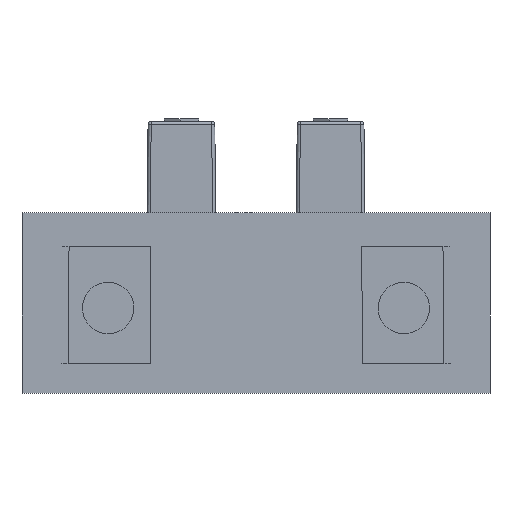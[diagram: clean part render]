
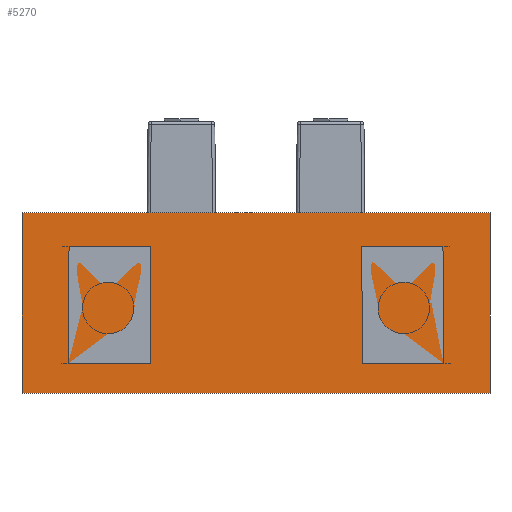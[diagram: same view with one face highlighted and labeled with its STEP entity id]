
A CAD part, left-side view. The second image highlights one B-rep face of the part: STEP entity #5270.
In plain terms, the highlighted planar face has unit normal (-1, 0, 0.006).
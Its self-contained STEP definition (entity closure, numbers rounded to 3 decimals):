
#5231=DIRECTION('',(0.006,0.,1.));
#5232=VECTOR('',#5231,11.56);
#5233=CARTESIAN_POINT('',(-3.741,42.861,-1.883));
#5234=LINE('',#5233,#5232);
#5235=DIRECTION('',(0.,-1.,0.));
#5236=VECTOR('',#5235,30.);
#5237=CARTESIAN_POINT('',(-3.671,42.861,9.677));
#5238=LINE('',#5237,#5236);
#5239=DIRECTION('',(-0.006,0.,-1.));
#5240=VECTOR('',#5239,11.56);
#5241=CARTESIAN_POINT('',(-3.671,12.861,9.677));
#5242=LINE('',#5241,#5240);
#5243=DIRECTION('',(0.,1.,0.));
#5244=VECTOR('',#5243,30.);
#5245=CARTESIAN_POINT('',(-3.741,12.861,-1.883));
#5246=LINE('',#5245,#5244);
#5247=CARTESIAN_POINT('',(-3.671,42.861,9.677));
#5248=CARTESIAN_POINT('',(-3.741,42.861,-1.883));
#5249=VERTEX_POINT('',#5247);
#5250=VERTEX_POINT('',#5248);
#5251=CARTESIAN_POINT('',(-3.671,12.861,9.677));
#5252=CARTESIAN_POINT('',(-3.741,12.861,-1.883));
#5253=VERTEX_POINT('',#5251);
#5254=VERTEX_POINT('',#5252);
#5255=CARTESIAN_POINT('',(-3.671,42.861,9.677));
#5256=DIRECTION('',(-1.,0.,0.006));
#5257=DIRECTION('',(-0.006,0.,-1.));
#5258=AXIS2_PLACEMENT_3D('',#5255,#5256,#5257);
#5259=PLANE('',#5258);
#5261=ORIENTED_EDGE('',*,*,#5260,.T.);
#5263=ORIENTED_EDGE('',*,*,#5262,.T.);
#5265=ORIENTED_EDGE('',*,*,#5264,.T.);
#5267=ORIENTED_EDGE('',*,*,#5266,.T.);
#5268=EDGE_LOOP('',(#5261,#5263,#5265,#5267));
#5269=FACE_OUTER_BOUND('',#5268,.F.);
#5270=ADVANCED_FACE('',(#5269),#5259,.T.);
#5260=EDGE_CURVE('',#5250,#5249,#5234,.T.);
#5262=EDGE_CURVE('',#5249,#5253,#5238,.T.);
#5264=EDGE_CURVE('',#5253,#5254,#5242,.T.);
#5266=EDGE_CURVE('',#5254,#5250,#5246,.T.);
